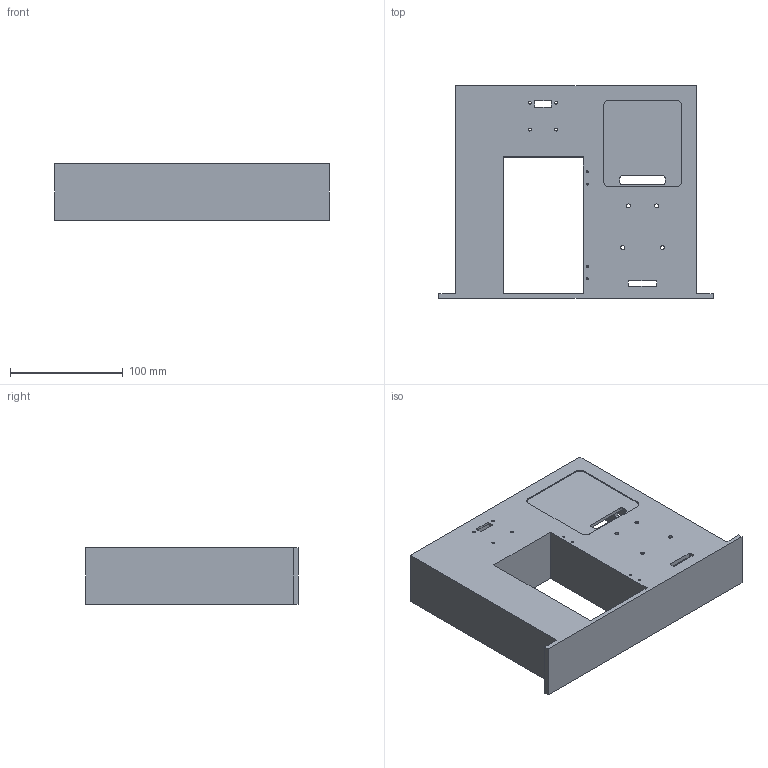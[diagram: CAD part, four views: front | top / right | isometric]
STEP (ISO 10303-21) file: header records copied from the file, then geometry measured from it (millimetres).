
FILE_DESCRIPTION((''),'2;1');
FILE_NAME('00','2026-07-21T10:42:17',('Admin'),(''),'CREO PARAMETRIC BY PTC INC, 2025183','CREO PARAMETRIC BY PTC INC, 2025183','');
FILE_SCHEMA(('CONFIG_CONTROL_DESIGN'));
Length unit declared in the file: millimetre
Products named in the file (1): 00
Bounding box: 243 x 188 x 50 mm (x, y, z)
Volume: 315169.4 mm3; surface area: 174891.3 mm2
Topology: 1 solids, 1 shells, 165 faces, 474 edges, 316 vertices
Faces by surface type: plane 93, cylinder 72
Entity records: 5546 total; most frequent: DIRECTION 956, CARTESIAN_POINT 955, ORIENTED_EDGE 948, EDGE_CURVE 474, VECTOR 322, LINE 322, AXIS2_PLACEMENT_3D 317, VERTEX_POINT 316
